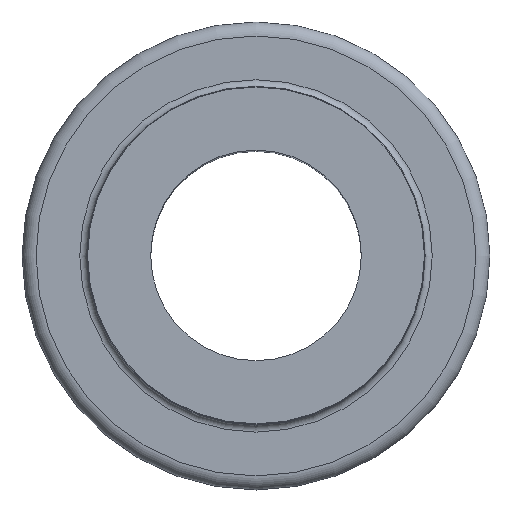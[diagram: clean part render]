
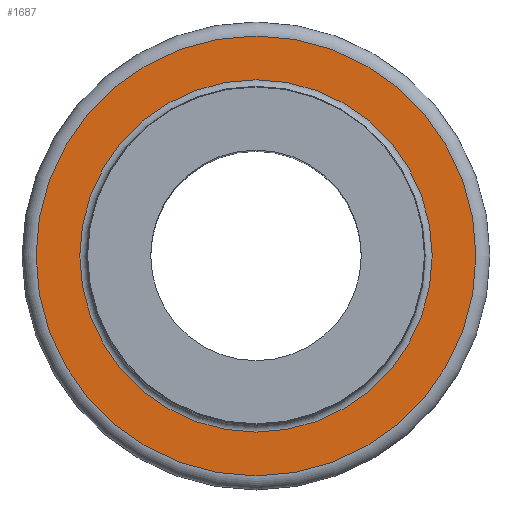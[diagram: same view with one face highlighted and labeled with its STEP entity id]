
A CAD part, top view. The second image highlights one B-rep face of the part: STEP entity #1687.
In plain terms, the highlighted planar face has unit normal (0, 0, 1).
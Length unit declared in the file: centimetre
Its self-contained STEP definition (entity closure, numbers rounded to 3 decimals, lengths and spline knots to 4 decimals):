
#217=PLANE('',#828);
#411=VERTEX_POINT('',#2643);
#413=VERTEX_POINT('',#2648);
#610=DIRECTION('',(0.,0.,1.));
#611=DIRECTION('',(0.,-1.913,0.));
#614=DIRECTION('',(0.,0.,1.));
#615=DIRECTION('',(0.,0.,-1.));
#616=DIRECTION('',(-2.388,0.,0.));
#826=AXIS2_PLACEMENT_3D('',#2642,#610,#611);
#828=AXIS2_PLACEMENT_3D('',#2646,#614,$);
#829=AXIS2_PLACEMENT_3D('',#2647,#615,#616);
#913=CIRCLE('',#826,1.9126);
#915=CIRCLE('',#829,2.3876);
#992=EDGE_CURVE('',#411,#411,#913,.T.);
#994=EDGE_CURVE('',#413,#413,#915,.T.);
#1222=ORIENTED_EDGE('',*,*,#994,.F.);
#1223=ORIENTED_EDGE('',*,*,#992,.F.);
#1498=EDGE_LOOP('',(#1222));
#1499=EDGE_LOOP('',(#1223));
#1594=FACE_BOUND('',#1498,.T.);
#1595=FACE_BOUND('',#1499,.T.);
#1687=ADVANCED_FACE('',(#1594,#1595),#217,.T.);
#2642=CARTESIAN_POINT('',(0.,0.,-3.3528));
#2643=CARTESIAN_POINT('',(0.,1.9126,-3.3528));
#2646=CARTESIAN_POINT('',(0.,0.,-3.3528));
#2647=CARTESIAN_POINT('',(0.,0.,-3.3528));
#2648=CARTESIAN_POINT('',(2.3876,0.,-3.3528));
